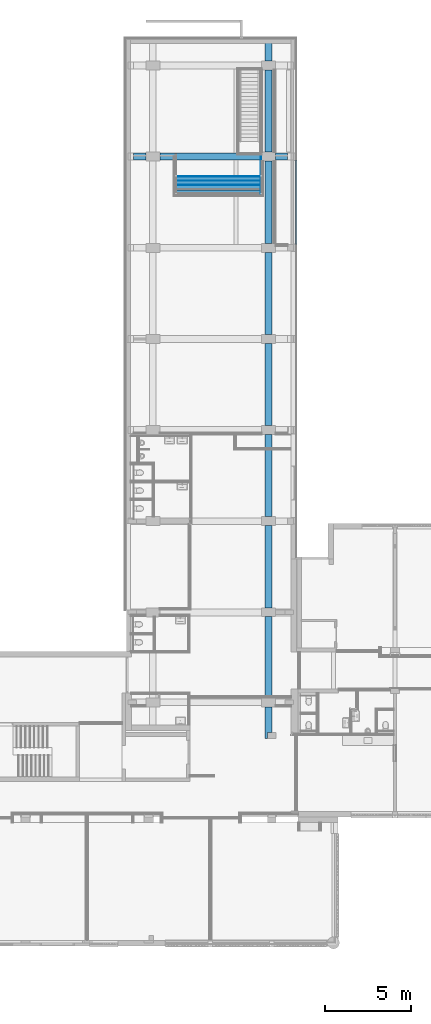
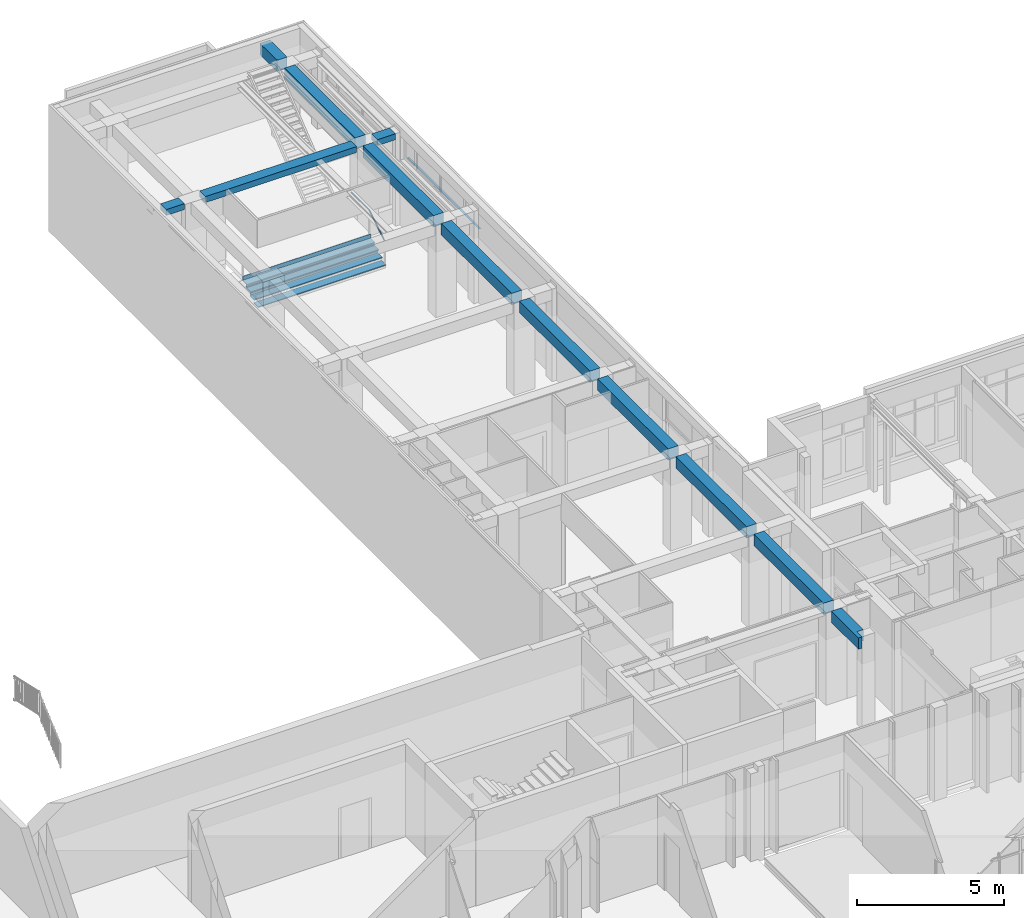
# One storey, part 64 of 135: 9 members, 3 beams, 2 elements without a shape of their own.
"""IFC2X3 building model written with IfcOpenShell, lengths in millimetres."""

from ifc_helpers import new_model, entity, si_unit, converted_unit, derived_unit, money_unit, direction, frame, origin_with_axes, place, context, subcontext, project, spatial, faceted_brep, material, type_object, element, aggregate, save


model = new_model("IFC2X3")

# Units and contexts
model_context = context("Model", 3, precision=0.01, world=origin_with_axes(), true_north=direction((0.0, 1.0)))
body_context = subcontext(model_context, "Body", "Model", "MODEL_VIEW")
ifc_project = project(units=[si_unit("LENGTHUNIT", "METRE", prefix="MILLI"), si_unit("AREAUNIT", "SQUARE_METRE"), si_unit("VOLUMEUNIT", "CUBIC_METRE"), converted_unit("PLANEANGLEUNIT", "DEGREE", entity("IfcPlaneAngleMeasure", 0.0174532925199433), si_unit("PLANEANGLEUNIT", "RADIAN"), dimensions=[0, 0, 0, 0, 0, 0, 0]), money_unit("EUR"), converted_unit("TIMEUNIT", "Year", entity("IfcTimeMeasure", 31557600.0), si_unit("TIMEUNIT", "SECOND"), dimensions=[0, 0, 1, 0, 0, 0, 0]), si_unit("MASSUNIT", "GRAM", prefix="KILO"), si_unit("THERMODYNAMICTEMPERATUREUNIT", "DEGREE_CELSIUS"), si_unit("LUMINOUSINTENSITYUNIT", "LUMEN"), si_unit("ENERGYUNIT", "JOULE", prefix="MEGA"), derived_unit("THERMALCONDUCTANCEUNIT", [(si_unit("POWERUNIT", "WATT"), 1), (si_unit("LENGTHUNIT", "METRE"), -1), (si_unit("THERMODYNAMICTEMPERATUREUNIT", "KELVIN"), -1)]), derived_unit("SPECIFICHEATCAPACITYUNIT", [(si_unit("ENERGYUNIT", "JOULE"), 1), (si_unit("MASSUNIT", "GRAM", prefix="KILO"), -1), (si_unit("THERMODYNAMICTEMPERATUREUNIT", "KELVIN"), -1)]), derived_unit("MASSDENSITYUNIT", [(si_unit("MASSUNIT", "GRAM", prefix="KILO"), 1), (si_unit("VOLUMEUNIT", "CUBIC_METRE"), -1)])], contexts=[model_context])

# Site, building, storey
site_placement = place(None, origin_with_axes())
site = spatial("IfcSite", under=ifc_project, at=site_placement, Name="Site", CompositionType="ELEMENT")
building_placement = place(site_placement, origin_with_axes())
building = spatial("IfcBuilding", under=site, at=building_placement, Name="Naam gebouw", CompositionType="ELEMENT")
storey_placement = place(building_placement, origin_with_axes())
storey = spatial("IfcBuildingStorey", under=building, at=storey_placement, Name="Begane grond N", CompositionType="ELEMENT", Elevation=0.0)

# Railing, members
railing_type = type_object("IfcRailingType", Name="Railing Type", PredefinedType="NOTDEFINED")
railing_placement = place(storey_placement, frame((28195.99999999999, 47067.9124162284, 160.0), z_axis=(0.0, 0.0, 1.0), x_axis=(-1.0, 0.0, 0.0)))
railing = element("IfcRailing", 1, at=railing_placement, inside=storey, type_object=railing_type, Name="_Reling-x", PredefinedType="NOTDEFINED")
ifc_material_1 = material(Name="Metaal - RVS")
member_type_1 = type_object("IfcMemberType", Name="IfcMember", PredefinedType="USERDEFINED")
member_1_placement = place(railing_placement, frame((30.00000000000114, -569.9999999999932, 955.2786404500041), z_axis=(0.0, 0.0, 1.0), x_axis=(-1.0, 0.0, 0.0)))
member_1 = element("IfcMember", 2, at=member_1_placement, type_object=member_type_1, material=ifc_material_1, Name="_Bovenregel-x", context=body_context, shape_type="Brep", body=[
    faceted_brep([(-19.99999999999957, -509.5180514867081, 27.68819321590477), (-19.69615506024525, -511.3382227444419, 30.64597150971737), (-19.69615506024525, 524.6778485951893, 668.1943231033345), (-19.99999999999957, 525.660843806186, 664.7213595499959), (-19.69615506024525, -507.6978802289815, 24.73041492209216), (-18.79385241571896, -505.9330139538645, 21.86250722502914), (-17.32050807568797, -504.2770772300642, 19.17161004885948), (-15.32088886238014, -502.7803848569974, 16.73948494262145), (-12.85575219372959, -501.4884130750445, 14.6400307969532), (-10.00000000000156, -500.4404177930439, 12.9370384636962), (-6.840402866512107, -499.6682418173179, 11.68225250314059), (-3.472963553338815, -499.1953473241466, 10.9137989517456), (0.0, -499.0361029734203, 10.65502688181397), (3.472963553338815, -499.1953473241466, 10.9137989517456), (6.840402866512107, -499.6682418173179, 11.68225250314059), (10.00000000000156, -500.4404177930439, 12.9370384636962), (12.85575219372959, -501.4884130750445, 14.6400307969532), (15.32088886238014, -502.7803848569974, 16.73948494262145), (17.32050807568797, -504.2770772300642, 19.17161004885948), (18.79385241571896, -505.9330139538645, 21.86250722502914), (19.69615506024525, -507.6978802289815, 24.73041492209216), (19.99999999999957, -509.5180514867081, 27.68819321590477), (19.69615506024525, -511.3382227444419, 30.64597150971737), (18.79385241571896, -513.1030890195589, 33.51387920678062), (17.32050807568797, -514.7590257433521, 36.20477638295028), (15.32088886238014, -516.2557181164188, 38.6369014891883), (12.85575219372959, -517.5476898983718, 40.73635563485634), (10.00000000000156, -518.5956851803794, 42.43934796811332), (6.840402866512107, -519.3678611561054, 43.69413392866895), (3.472963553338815, -519.8407556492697, 44.46258748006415), (0.0, -519.999999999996, 44.72135954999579), (-3.472963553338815, -519.8407556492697, 44.46258748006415), (-6.840402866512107, -519.3678611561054, 43.69413392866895), (-10.00000000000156, -518.5956851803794, 42.43934796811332), (-12.85575219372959, -517.5476898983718, 40.73635563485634), (-15.32088886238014, -516.2557181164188, 38.6369014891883), (-17.32050807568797, -514.7590257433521, 36.20477638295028), (-18.79385241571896, -513.1030890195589, 33.51387920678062), (-18.79385241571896, 523.7247211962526, 671.5617624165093), (-17.32050807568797, 522.8304219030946, 674.7213595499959), (-15.32088886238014, 522.0221235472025, 677.5771117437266), (-12.85575219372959, 521.3243858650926, 680.0422484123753), (-10.00000000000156, 520.7584092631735, 682.0418676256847), (-6.840402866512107, 520.3413906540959, 683.5152119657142), (-3.472963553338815, 520.086000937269, 684.41751461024), (0.0, 520.0000000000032, 684.7213595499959), (3.472963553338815, 520.086000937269, 684.41751461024), (6.840402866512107, 520.3413906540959, 683.5152119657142), (10.00000000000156, 520.7584092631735, 682.0418676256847), (12.85575219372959, 521.3243858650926, 680.0422484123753), (15.32088886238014, 522.0221235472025, 677.5771117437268), (17.32050807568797, 522.8304219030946, 674.7213595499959), (18.79385241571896, 523.7247211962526, 671.5617624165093), (19.69615506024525, 524.6778485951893, 668.1943231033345), (19.99999999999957, 525.660843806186, 664.7213595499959), (19.69615506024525, 526.64383901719, 661.2483959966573), (18.79385241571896, 527.5969664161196, 657.8809566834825), (17.32050807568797, 528.4912657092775, 654.7213595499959), (15.32088886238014, 529.2995640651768, 651.8656073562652), (12.85575219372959, 529.9973017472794, 649.4004706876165), (10.00000000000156, 530.5632783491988, 647.400851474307), (6.840402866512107, 530.9802969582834, 645.9275071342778), (3.472963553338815, 531.2356866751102, 645.0252044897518), (0.0, 531.321687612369, 644.7213595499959), (-3.472963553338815, 531.2356866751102, 645.0252044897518), (-6.840402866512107, 530.9802969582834, 645.9275071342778), (-10.00000000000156, 530.5632783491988, 647.400851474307), (-12.85575219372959, 529.9973017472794, 649.4004706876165), (-15.32088886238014, 529.2995640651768, 651.8656073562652), (-17.32050807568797, 528.4912657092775, 654.7213595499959), (-18.79385241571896, 527.5969664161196, 657.8809566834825), (-19.69615506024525, 526.64383901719, 661.2483959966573)], [[[0, 1, 2, 3]], [[0, 4, 5, 6, 7, 8, 9, 10, 11, 12, 13, 14, 15, 16, 17, 18, 19, 20, 21, 22, 23, 24, 25, 26, 27, 28, 29, 30, 31, 32, 33, 34, 35, 36, 37, 1]], [[1, 37, 38, 2]], [[3, 2, 38, 39, 40, 41, 42, 43, 44, 45, 46, 47, 48, 49, 50, 51, 52, 53, 54, 55, 56, 57, 58, 59, 60, 61, 62, 63, 64, 65, 66, 67, 68, 69, 70, 71]], [[4, 0, 3, 71]], [[5, 4, 71, 70]], [[6, 5, 70, 69]], [[7, 6, 69, 68]], [[8, 7, 68, 67]], [[9, 8, 67, 66]], [[10, 9, 66, 65]], [[11, 10, 65, 64]], [[12, 11, 64, 63]], [[13, 12, 63, 62]], [[14, 13, 62, 61]], [[15, 14, 61, 60]], [[16, 15, 60, 59]], [[17, 16, 59, 58]], [[18, 17, 58, 57]], [[19, 18, 57, 56]], [[20, 19, 56, 55]], [[21, 20, 55, 54]], [[22, 21, 54, 53]], [[23, 22, 53, 52]], [[24, 23, 52, 51]], [[25, 24, 51, 50]], [[26, 25, 50, 49]], [[27, 26, 49, 48]], [[28, 27, 48, 47]], [[29, 28, 47, 46]], [[30, 29, 46, 45]], [[31, 30, 45, 44]], [[32, 31, 44, 43]], [[33, 32, 43, 42]], [[34, 33, 42, 41]], [[35, 34, 41, 40]], [[36, 35, 40, 39]], [[37, 36, 39, 38]]]),
])
member_2_placement = place(railing_placement, frame((30.00000000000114, -1699.000002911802, 1595.278640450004), z_axis=(0.0, 0.0, 1.0), x_axis=(-1.0, 0.0, 0.0)))
member_2 = element("IfcMember", 3, at=member_2_placement, type_object=member_type_1, material=ifc_material_1, Name="_Bovenregel-x", context=body_context, shape_type="Brep", body=[
    faceted_brep([(-19.99999999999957, -603.3391591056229, 24.72135954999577), (-19.69615506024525, -604.3221543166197, 28.19432310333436), (-19.69615506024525, 609.0000029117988, 28.19432310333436), (-19.99999999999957, 609.0000029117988, 24.72135954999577), (-19.69615506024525, -602.3561638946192, 21.24839599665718), (-18.79385241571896, -601.4030364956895, 17.88095668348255), (-17.32050807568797, -600.5087372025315, 14.72135954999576), (-15.32088886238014, -599.7004388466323, 11.86560735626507), (-12.85575219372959, -599.0027011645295, 9.400470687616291), (-10.00000000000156, -598.4367245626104, 7.400851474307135), (-6.840402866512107, -598.0197059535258, 5.927507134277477), (-3.472963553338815, -597.7643162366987, 5.025204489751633), (0.0, -597.6783152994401, 4.721359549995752), (3.472963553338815, -597.7643162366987, 5.025204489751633), (6.840402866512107, -598.0197059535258, 5.927507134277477), (10.00000000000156, -598.4367245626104, 7.400851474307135), (12.85575219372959, -599.0027011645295, 9.400470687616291), (15.32088886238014, -599.7004388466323, 11.86560735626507), (17.32050807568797, -600.5087372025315, 14.72135954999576), (18.79385241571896, -601.4030364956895, 17.88095668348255), (19.69615506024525, -602.3561638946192, 21.24839599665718), (19.99999999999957, -603.3391591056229, 24.72135954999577), (19.69615506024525, -604.3221543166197, 28.19432310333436), (18.79385241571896, -605.2752817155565, 31.56176241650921), (17.32050807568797, -606.1695810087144, 34.72135954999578), (15.32088886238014, -606.9778793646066, 37.57711174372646), (12.85575219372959, -607.6756170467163, 40.04224841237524), (10.00000000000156, -608.2415936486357, 42.0418676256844), (6.840402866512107, -608.6586122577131, 43.51521196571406), (3.472963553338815, -608.91400197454, 44.41751461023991), (0.0, -609.000002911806, 44.72135954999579), (-3.472963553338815, -608.91400197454, 44.41751461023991), (-6.840402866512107, -608.6586122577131, 43.51521196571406), (-10.00000000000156, -608.2415936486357, 42.0418676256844), (-12.85575219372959, -607.6756170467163, 40.04224841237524), (-15.32088886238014, -606.9778793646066, 37.57711174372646), (-17.32050807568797, -606.1695810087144, 34.72135954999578), (-18.79385241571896, -605.2752817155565, 31.56176241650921), (-18.79385241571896, 609.0000029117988, 31.56176241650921), (-17.32050807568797, 609.0000029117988, 34.72135954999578), (-15.32088886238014, 609.0000029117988, 37.57711174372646), (-12.85575219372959, 609.0000029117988, 40.04224841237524), (-10.00000000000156, 609.0000029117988, 42.0418676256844), (-6.840402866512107, 609.0000029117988, 43.51521196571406), (-3.472963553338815, 609.0000029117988, 44.41751461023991), (0.0, 609.0000029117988, 44.72135954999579), (3.472963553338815, 609.0000029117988, 44.41751461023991), (6.840402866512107, 609.0000029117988, 43.51521196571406), (10.00000000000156, 609.0000029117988, 42.0418676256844), (12.85575219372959, 609.0000029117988, 40.04224841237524), (15.32088886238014, 609.0000029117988, 37.57711174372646), (17.32050807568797, 609.0000029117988, 34.72135954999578), (18.79385241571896, 609.0000029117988, 31.56176241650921), (19.69615506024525, 609.0000029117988, 28.19432310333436), (19.99999999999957, 609.0000029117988, 24.72135954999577), (19.69615506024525, 609.0000029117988, 21.24839599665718), (18.79385241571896, 609.0000029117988, 17.88095668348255), (17.32050807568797, 609.0000029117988, 14.72135954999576), (15.32088886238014, 609.0000029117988, 11.86560735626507), (12.85575219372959, 609.0000029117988, 9.400470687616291), (10.00000000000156, 609.0000029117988, 7.400851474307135), (6.840402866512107, 609.0000029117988, 5.927507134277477), (3.472963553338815, 609.0000029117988, 5.025204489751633), (0.0, 609.0000029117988, 4.721359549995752), (-3.472963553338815, 609.0000029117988, 5.025204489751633), (-6.840402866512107, 609.0000029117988, 5.927507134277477), (-10.00000000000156, 609.0000029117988, 7.400851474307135), (-12.85575219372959, 609.0000029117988, 9.400470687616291), (-15.32088886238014, 609.0000029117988, 11.86560735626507), (-17.32050807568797, 609.0000029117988, 14.72135954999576), (-18.79385241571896, 609.0000029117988, 17.88095668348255), (-19.69615506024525, 609.0000029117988, 21.24839599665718)], [[[0, 1, 2, 3]], [[0, 4, 5, 6, 7, 8, 9, 10, 11, 12, 13, 14, 15, 16, 17, 18, 19, 20, 21, 22, 23, 24, 25, 26, 27, 28, 29, 30, 31, 32, 33, 34, 35, 36, 37, 1]], [[1, 37, 38, 2]], [[3, 2, 38, 39, 40, 41, 42, 43, 44, 45, 46, 47, 48, 49, 50, 51, 52, 53, 54, 55, 56, 57, 58, 59, 60, 61, 62, 63, 64, 65, 66, 67, 68, 69, 70, 71]], [[4, 0, 3, 71]], [[5, 4, 71, 70]], [[6, 5, 70, 69]], [[7, 6, 69, 68]], [[8, 7, 68, 67]], [[9, 8, 67, 66]], [[10, 9, 66, 65]], [[11, 10, 65, 64]], [[12, 11, 64, 63]], [[13, 12, 63, 62]], [[14, 13, 62, 61]], [[15, 14, 61, 60]], [[16, 15, 60, 59]], [[17, 16, 59, 58]], [[18, 17, 58, 57]], [[19, 18, 57, 56]], [[20, 19, 56, 55]], [[21, 20, 55, 54]], [[22, 21, 54, 53]], [[23, 22, 53, 52]], [[24, 23, 52, 51]], [[25, 24, 51, 50]], [[26, 25, 50, 49]], [[27, 26, 49, 48]], [[28, 27, 48, 47]], [[29, 28, 47, 46]], [[30, 29, 46, 45]], [[31, 30, 45, 44]], [[32, 31, 44, 43]], [[33, 32, 43, 42]], [[34, 33, 42, 41]], [[35, 34, 41, 40]], [[36, 35, 40, 39]], [[37, 36, 39, 38]]]),
])
aggregate(railing, [member_1, member_2])

# Beam
ifc_material_2 = material(Name="Metaal - Aluminium")
beam_type_1 = type_object("IfcBeamType", Name="Lekdorpel 107 x 49", PredefinedType="BEAM")
beam_1_placement = place(storey_placement, frame((30236.0, 44160.91242510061, 2700.0), z_axis=(0.0, 0.0, 1.0), x_axis=(1.0, 0.0, 0.0)))
element("IfcBeam", 4, at=beam_1_placement, inside=storey, type_object=beam_type_1, material=ifc_material_2, Name="_Balk-x", ObjectType="BEAM", context=body_context, shape_type="Brep", body=[
    faceted_brep([(27.99999999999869, 0.0, -1.678199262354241), (27.99999999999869, 4899.999999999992, -1.678199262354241), (27.99999999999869, 4899.999999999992, -16.53589838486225), (27.99999999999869, 0.0, -16.53589838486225), (-77.00000000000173, 0.0, 16.83613371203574), (-77.00000000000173, 4899.999999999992, 16.83613371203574), (-77.00000000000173, 4899.999999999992, 28.51433297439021), (-74.99999999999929, 4899.999999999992, 28.51433297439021), (-74.99999999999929, 4899.999999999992, 18.51433297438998), (30.00000000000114, 4899.999999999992, 0.0), (30.00000000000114, 4899.999999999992, -20.00000000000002), (19.99999999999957, 4899.999999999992, -14.22649730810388), (19.99999999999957, 4899.999999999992, -11.91709623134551), (19.99999999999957, 0.0, -11.91709623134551), (19.99999999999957, 0.0, -14.22649730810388), (30.00000000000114, 0.0, -20.00000000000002), (30.00000000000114, 0.0, 0.0), (-74.99999999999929, 0.0, 18.51433297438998), (-74.99999999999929, 0.0, 28.51433297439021), (-77.00000000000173, 0.0, 28.51433297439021)], [[[0, 1, 2, 3]], [[4, 5, 1, 0]], [[2, 1, 5, 6, 7, 8, 9, 10, 11, 12]], [[3, 2, 12, 13]], [[4, 0, 3, 13, 14, 15, 16, 17, 18, 19]], [[19, 6, 5, 4]], [[18, 7, 6, 19]], [[17, 8, 7, 18]], [[16, 9, 8, 17]], [[15, 10, 9, 16]], [[14, 11, 10, 15]], [[13, 12, 11, 14]]]),
])

# Stair, members
stair_placement = place(storey_placement, frame((23160.00002619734, 46726.46897177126, 0.0), z_axis=(0.0, 0.0, 1.0), x_axis=(0.0, -1.0, 0.0)))
stair = element("IfcStair", 5, at=stair_placement, inside=storey, Name="_Trap-x", ShapeType="NOTDEFINED")
ifc_material_3 = material(Name="Hout - Vloer")
member_type_2 = type_object("IfcMemberType", Name="IfcMember", PredefinedType="USERDEFINED")
member_3_placement = place(stair_placement, frame((-341.4434444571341, 2500.0, 160.0), z_axis=(0.0, 0.0, 1.0), x_axis=(0.0, 1.0, 0.0)))
member_3 = element("IfcMember", 6, at=member_3_placement, type_object=member_type_2, material=ifc_material_3, Name="_Traptrede-x", context=body_context, shape_type="Brep", body=[
    faceted_brep([(-2500.0, 0.0, -38.0), (2535.999973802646, 0.0, -38.0), (2535.999973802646, 0.0, 0.0), (-2500.0, 0.0, 0.0), (-2500.0, 308.0000000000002, -38.0), (2535.999973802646, 308.0000000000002, -38.0), (2535.999973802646, 308.0000000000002, 0.0), (-2500.0, 308.0000000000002, 0.0)], [[[0, 1, 2, 3]], [[0, 4, 5, 1]], [[1, 5, 6, 2]], [[3, 2, 6, 7]], [[4, 0, 3, 7]], [[5, 4, 7, 6]]]),
])
member_4_placement = place(stair_placement, frame((-591.4434444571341, 2500.0, 320.0), z_axis=(0.0, 0.0, 1.0), x_axis=(0.0, 1.0, 0.0)))
member_4 = element("IfcMember", 7, at=member_4_placement, type_object=member_type_2, material=ifc_material_3, Name="_Traptrede-x", context=body_context, shape_type="Brep", body=[
    faceted_brep([(-2500.0, 0.0, -38.0), (2535.999973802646, 0.0, -38.0), (2535.999973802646, 0.0, 0.0), (-2500.0, 0.0, 0.0), (-2500.0, 308.0000000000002, -38.0), (2535.999973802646, 308.0000000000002, -38.0), (2535.999973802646, 308.0000000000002, 0.0), (-2500.0, 308.0000000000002, 0.0)], [[[0, 1, 2, 3]], [[0, 4, 5, 1]], [[1, 5, 6, 2]], [[3, 2, 6, 7]], [[4, 0, 3, 7]], [[5, 4, 7, 6]]]),
])
member_5_placement = place(stair_placement, frame((-841.4434444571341, 2500.0, 480.0), z_axis=(0.0, 0.0, 1.0), x_axis=(0.0, 1.0, 0.0)))
member_5 = element("IfcMember", 8, at=member_5_placement, type_object=member_type_2, material=ifc_material_3, Name="_Traptrede-x", context=body_context, shape_type="Brep", body=[
    faceted_brep([(-2500.0, 0.0, -38.0), (2535.999973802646, 0.0, -38.0), (2535.999973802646, 0.0, 0.0), (-2500.0, 0.0, 0.0), (-2500.0, 308.0000000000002, -38.0), (2535.999973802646, 308.0000000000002, -38.0), (2535.999973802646, 308.0000000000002, 0.0), (-2500.0, 308.0000000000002, 0.0)], [[[0, 1, 2, 3]], [[0, 4, 5, 1]], [[1, 5, 6, 2]], [[3, 2, 6, 7]], [[4, 0, 3, 7]], [[5, 4, 7, 6]]]),
])
member_6_placement = place(stair_placement, frame((-1091.443444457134, 2500.0, 640.0), z_axis=(0.0, 0.0, 1.0), x_axis=(0.0, 1.0, 0.0)))
member_6 = element("IfcMember", 9, at=member_6_placement, type_object=member_type_2, material=ifc_material_3, Name="_Traptrede-x", context=body_context, shape_type="Brep", body=[
    faceted_brep([(-2500.0, 0.0, -38.0), (2535.999973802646, 0.0, -38.0), (2535.999973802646, 0.0, 0.0), (-2500.0, 0.0, 0.0), (-2500.0, 250.0000000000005, -38.0), (-2500.0, 308.0000000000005, -38.0), (2535.999973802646, 308.0000000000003, -38.0), (2535.999973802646, 250.0000000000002, -38.0), (2535.999973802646, 250.0000000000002, 0.0), (2535.999973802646, 308.0000000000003, 0.0), (-2500.0, 308.0000000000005, 0.0), (-2500.0, 250.0000000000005, 0.0)], [[[0, 1, 2, 3]], [[0, 4, 5, 6, 7, 1]], [[1, 7, 8, 2]], [[3, 2, 8, 9, 10, 11]], [[4, 0, 3, 11]], [[5, 4, 11, 10]], [[6, 5, 10, 9]], [[7, 6, 9, 8]]]),
])

# Beam
ifc_material_4 = material(Name="ALG - CONSTRUCTIEF KOLOM")
beam_type_2 = type_object("IfcBeamType", Name="ALG - CONSTRUCTIEF KOLOM 400 x 470", PredefinedType="BEAM")
beam_2_placement = place(storey_placement, frame((28606.0, 56035.91242510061, 3850.0), z_axis=(0.0, 0.0, 1.0), x_axis=(-1.0, 0.0, 0.0)))
element("IfcBeam", 10, at=beam_2_placement, inside=storey, type_object=beam_type_2, material=ifc_material_4, Name="_Balk-x", ObjectType="BEAM", context=body_context, shape_type="Brep", body=[
    faceted_brep([(199.9999999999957, 7022.500000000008, 0.0), (199.9999999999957, 11827.5, 0.0), (-200.0000000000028, 11827.5, 0.0), (-200.0000000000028, 7022.500000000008, 0.0), (199.9999999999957, 7022.500000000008, -470.0016757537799), (199.9999999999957, 11827.5, -470.0013585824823), (-200.0000000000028, 11827.5, -470.0013585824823), (-200.0000000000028, 7022.500000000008, -470.0016757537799)], [[[0, 1, 2, 3]], [[4, 5, 1, 0]], [[5, 6, 2, 1]], [[3, 2, 6, 7]], [[4, 0, 3, 7]], [[7, 6, 5, 4]]]),
    faceted_brep([(199.9999999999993, 0.0, 0.0), (199.9999999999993, 1167.500000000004, 0.0), (-199.9999999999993, 1167.500000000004, 0.0), (-199.9999999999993, 0.0, 0.0), (199.9999999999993, 0.0, -470.001354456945), (199.9999999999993, 1167.500000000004, -470.0019972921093), (-199.9999999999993, 1167.500000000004, -470.0019972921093), (-199.9999999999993, 0.0, -470.001354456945)], [[[0, 1, 2, 3]], [[4, 5, 1, 0]], [[5, 6, 2, 1]], [[3, 2, 6, 7]], [[4, 0, 3, 7]], [[7, 6, 5, 4]]]),
    faceted_brep([(199.9999999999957, 12352.50000000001, 0.0), (199.9999999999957, 17157.5, 0.0), (-200.0000000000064, 17157.5, 0.0), (-200.0000000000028, 12352.50000000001, 0.0), (199.9999999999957, 12352.50000000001, -470.0013458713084), (199.9999999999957, 17157.5, -470.0006858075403), (-200.0000000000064, 17157.5, -470.0006858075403), (-200.0000000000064, 12352.50000000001, -470.0013458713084)], [[[0, 1, 2, 3]], [[4, 5, 1, 0]], [[5, 6, 2, 1]], [[3, 2, 6, 7]], [[4, 0, 3, 7]], [[7, 6, 5, 4]]]),
    faceted_brep([(199.9999999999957, 17682.5, 0.0), (199.9999999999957, 22487.5, 0.0), (-200.0000000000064, 22487.5, 0.0), (-200.0000000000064, 17682.5, 0.0), (199.9999999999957, 17682.5, -470.0006876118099), (199.9999999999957, 22487.5, -470.0014863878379), (-200.0000000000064, 22487.5, -470.0014863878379), (-200.0000000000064, 17682.5, -470.0006876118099)], [[[0, 1, 2, 3]], [[4, 5, 1, 0]], [[5, 6, 2, 1]], [[3, 2, 6, 7]], [[4, 0, 3, 7]], [[7, 6, 5, 4]]]),
    faceted_brep([(199.9999999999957, 23012.5, 0.0), (199.9999999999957, 27817.5, 0.0), (-200.0000000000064, 27817.5, 0.0), (-200.0000000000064, 23012.5, 0.0), (199.9999999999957, 23012.5, -470.0015020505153), (199.9999999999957, 27817.5, -470.001907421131), (-200.0000000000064, 27817.5, -470.001907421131), (-200.0000000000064, 23012.5, -470.0015020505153)], [[[0, 1, 2, 3]], [[4, 5, 1, 0]], [[5, 6, 2, 1]], [[3, 2, 6, 7]], [[4, 0, 3, 7]], [[7, 6, 5, 4]]]),
    faceted_brep([(199.9999999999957, 28342.5, 0.0), (199.9999999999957, 33160.0, 0.0), (-200.0000000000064, 33160.0, 0.0), (-200.0000000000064, 28342.5, 0.0), (199.9999999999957, 28342.5, -470.0019212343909), (199.9999999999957, 33160.0, -470.0025795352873), (-200.0000000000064, 33160.0, -470.0025795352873), (-200.0000000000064, 28342.5, -470.0019212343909)], [[[0, 1, 2, 3]], [[4, 5, 1, 0]], [[5, 6, 2, 1]], [[3, 2, 6, 7]], [[4, 0, 3, 7]], [[7, 6, 5, 4]]]),
    faceted_brep([(199.9999999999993, 40782.5, 0.0), (56.00000000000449, 40782.49999999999, 0.0), (56.00000000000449, 40427.49999999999, 0.0), (-200.0000000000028, 40427.49999999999, 0.0), (-200.0000000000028, 38932.5, 0.0), (199.9999999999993, 38932.5, 0.0), (199.9999999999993, 40782.5, -470.001354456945), (56.00000000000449, 40782.49999999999, -470.001354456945), (56.00000000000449, 40427.49999999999, -470.001354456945), (-200.0000000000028, 40427.49999999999, -470.0014155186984), (-200.0000000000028, 38932.5, -470.0016726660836), (199.9999999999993, 38932.5, -470.0016726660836)], [[[0, 1, 2, 3, 4, 5]], [[6, 7, 1, 0]], [[8, 2, 1, 7]], [[8, 9, 3, 2]], [[4, 3, 9, 10]], [[11, 5, 4, 10]], [[0, 5, 11, 6]], [[9, 8, 7, 6, 11, 10]]]),
    faceted_brep([(199.9999999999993, 1692.50000000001, 0.0), (199.9999999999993, 6497.500000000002, 0.0), (-199.9999999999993, 6497.500000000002, 0.0), (-199.9999999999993, 1692.50000000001, 0.0), (199.9999999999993, 1692.50000000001, -470.0020275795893), (199.9999999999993, 6497.500000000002, -470.0017104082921), (-199.9999999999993, 6497.500000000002, -470.0017104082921), (-199.9999999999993, 1692.50000000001, -470.0020275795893)], [[[0, 1, 2, 3]], [[4, 5, 1, 0]], [[5, 6, 2, 1]], [[3, 2, 6, 7]], [[4, 0, 3, 7]], [[7, 6, 5, 4]]]),
    faceted_brep([(199.9999999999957, 33660.0, 0.0), (199.9999999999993, 38407.5, 0.0), (-200.0000000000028, 38407.5, 0.0), (-200.0000000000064, 33660.0, 0.0), (199.9999999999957, 33660.0, -470.0025795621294), (199.9999999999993, 38407.5, -470.0017629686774), (-200.0000000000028, 38407.5, -470.0017629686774), (-200.0000000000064, 33660.0, -470.0025795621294)], [[[0, 1, 2, 3]], [[4, 5, 1, 0]], [[5, 6, 2, 1]], [[3, 2, 6, 7]], [[4, 0, 3, 7]], [[7, 6, 5, 4]]]),
])

# Member
member_type_3 = type_object("IfcMemberType", Name="IfcMember", PredefinedType="USERDEFINED")
member_7_placement = place(stair_placement, frame((-841.4434444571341, 2500.0, 442.0), z_axis=(0.0, 0.0, 1.0), x_axis=(0.0, 1.0, 0.0)))
member_7 = element("IfcMember", 11, at=member_7_placement, type_object=member_type_3, material=ifc_material_3, Name="_Stootbord-x", context=body_context, shape_type="Brep", body=[
    faceted_brep([(2535.999973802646, 39.99999999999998, 0.0), (2535.999973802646, 57.99999999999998, 0.0), (-2500.0, 57.99999999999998, 0.0), (-2500.0, 39.99999999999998, 0.0), (2535.999973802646, 39.99999999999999, -122.0), (2535.999973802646, 57.99999999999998, -122.0), (-2500.0, 57.99999999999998, -122.0), (-2500.0, 39.99999999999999, -122.0)], [[[0, 1, 2, 3]], [[0, 4, 5, 1]], [[1, 5, 6, 2]], [[3, 2, 6, 7]], [[4, 0, 3, 7]], [[5, 4, 7, 6]]]),
])

member_8_placement = place(stair_placement, frame((-1341.443444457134, 2500.0, 800.0), z_axis=(0.0, 0.0, 1.0), x_axis=(0.0, 1.0, 0.0)))
member_8 = element("IfcMember", 12, at=member_8_placement, type_object=member_type_3, material=ifc_material_3, Name="_Stootbord-x", context=body_context, shape_type="Brep", body=[
    faceted_brep([(2535.999973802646, 40.00000000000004, 0.0), (2535.999973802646, 58.00000000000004, 0.0), (-2500.0, 58.00000000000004, 0.0), (-2500.0, 40.00000000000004, 0.0), (2535.999973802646, 40.00000000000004, -160.0), (2535.999973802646, 58.00000000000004, -160.0), (-2500.0, 58.00000000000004, -160.0), (-2500.0, 40.00000000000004, -160.0)], [[[0, 1, 2, 3]], [[0, 4, 5, 1]], [[1, 5, 6, 2]], [[3, 2, 6, 7]], [[4, 0, 3, 7]], [[5, 4, 7, 6]]]),
])

member_9_placement = place(stair_placement, frame((-1091.443444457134, 2500.0, 602.0), z_axis=(0.0, 0.0, 1.0), x_axis=(0.0, 1.0, 0.0)))
member_9 = element("IfcMember", 13, at=member_9_placement, type_object=member_type_3, material=ifc_material_3, Name="_Stootbord-x", context=body_context, shape_type="Brep", body=[
    faceted_brep([(2535.999973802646, 39.99999999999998, 0.0), (2535.999973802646, 57.99999999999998, 0.0), (-2500.0, 57.99999999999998, 0.0), (-2500.0, 39.99999999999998, 0.0), (2535.999973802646, 39.99999999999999, -122.0), (2535.999973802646, 57.99999999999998, -122.0), (-2500.0, 57.99999999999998, -122.0), (-2500.0, 39.99999999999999, -122.0)], [[[0, 1, 2, 3]], [[0, 4, 5, 1]], [[1, 5, 6, 2]], [[3, 2, 6, 7]], [[4, 0, 3, 7]], [[5, 4, 7, 6]]]),
])

aggregate(stair, [member_7, member_8, member_9, member_3, member_4, member_5, member_6])

# Beam
beam_type_3 = type_object("IfcBeamType", Name="ALG - CONSTRUCTIEF KOLOM 400 x 250", PredefinedType="BEAM")
beam_3_placement = place(storey_placement, frame((20386.0, 49275.9124251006, 3850.0), z_axis=(0.0, 0.0, 1.0), x_axis=(0.0, -1.0, 0.0)))
element("IfcBeam", 14, at=beam_3_placement, inside=storey, type_object=beam_type_3, material=ifc_material_4, Name="_Balk-x", ObjectType="BEAM", context=body_context, shape_type="Brep", body=[
    faceted_brep([(200.0000000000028, 329.9999999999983, 0.0), (200.0000000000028, 1039.999999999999, 0.0), (-200.0000000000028, 1039.999999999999, 0.0), (-200.0000000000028, 329.9999999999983, 0.0), (200.0000000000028, 329.9999999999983, -250.0000000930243), (200.0000000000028, 1039.999999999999, -250.0000000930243), (-200.0000000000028, 1039.999999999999, -250.0000000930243), (-200.0000000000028, 329.9999999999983, -250.0000000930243)], [[[0, 1, 2, 3]], [[4, 5, 1, 0]], [[5, 6, 2, 1]], [[3, 2, 6, 7]], [[4, 0, 3, 7]], [[7, 6, 5, 4]]]),
    faceted_brep([(-200.0000000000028, 9339.999999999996, -250.0000000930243), (-200.0000000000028, 8629.999999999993, -250.0000000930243), (-200.0000000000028, 8629.999999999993, 0.0), (-200.0000000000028, 9339.999999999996, 0.0), (200.0000000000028, 9339.999999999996, -250.0000000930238), (200.0000000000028, 8629.999999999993, -250.0000000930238), (200.0000000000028, 8629.999999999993, 0.0), (200.0000000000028, 9339.999999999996, 0.0)], [[[0, 1, 2, 3]], [[4, 5, 1, 0]], [[5, 6, 2, 1]], [[3, 2, 6, 7]], [[4, 0, 3, 7]], [[7, 6, 5, 4]]]),
    faceted_brep([(-200.0000000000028, 7809.999999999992, -250.0000000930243), (-200.0000000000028, 1860.0, -250.0000000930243), (-200.0000000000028, 1860.0, 0.0), (-200.0000000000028, 7809.999999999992, 0.0), (200.0000000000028, 7809.999999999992, -250.0000000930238), (200.0000000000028, 1860.0, -250.0000000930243), (200.0000000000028, 1860.0, 0.0), (200.0000000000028, 7809.999999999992, 0.0)], [[[0, 1, 2, 3]], [[4, 5, 1, 0]], [[5, 6, 2, 1]], [[3, 2, 6, 7]], [[4, 0, 3, 7]], [[7, 6, 5, 4]]]),
])

save(model, "model.ifc")
